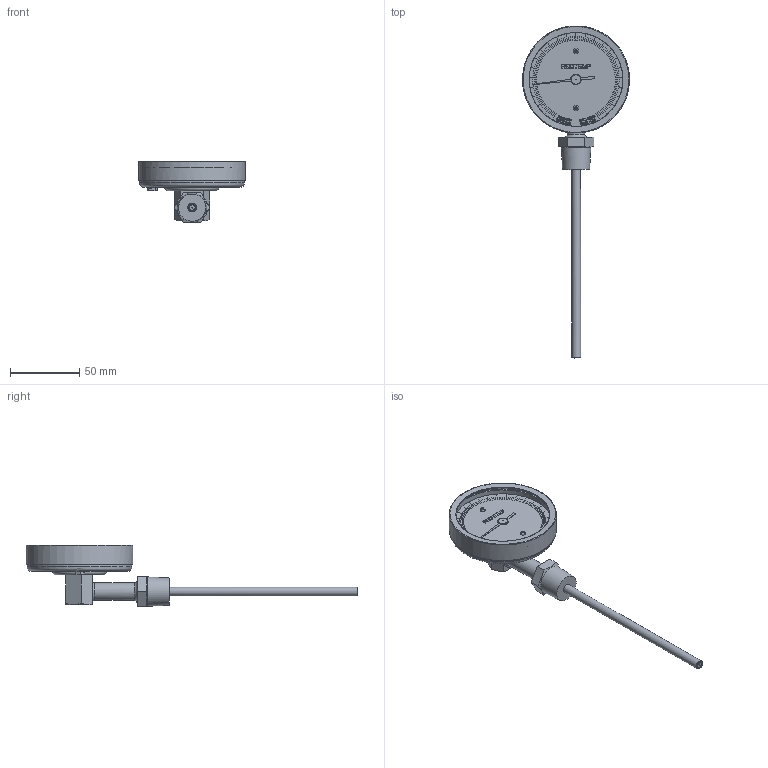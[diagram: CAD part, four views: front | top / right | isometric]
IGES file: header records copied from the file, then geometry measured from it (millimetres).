
Global section: file name: XR-half-NPT-IGS; native system: Autodesk Inventor 2014; preprocessor: unknown; author: Charles; date: 20151109.113425; units: inch
Bounding box: 77.46 x 240.42 x 44.83 mm (x, y, z)
Volume: 57273.9 mm3; surface area: 47272.4 mm2
Topology: 32 solids, 32 shells, 1671 faces, 4800 edges, 3208 vertices
Faces by surface type: bspline 1671
